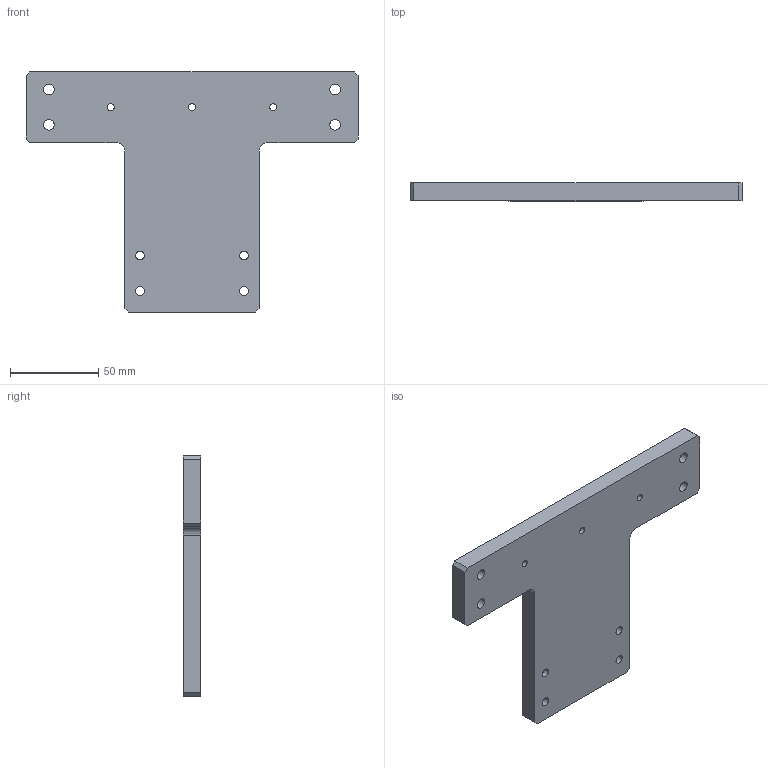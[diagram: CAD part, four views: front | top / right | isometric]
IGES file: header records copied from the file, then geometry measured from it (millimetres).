
Start section:  PTC IGES file: n46-n46m-ft.igs
Global section: file name: n46-n46m-ft.igs; native system: Pro/ENGINEER by Parametric Technology Corporation; preprocessor: 2008230; author: Owner; organization: Unknown; date: 20121212.112846; units: millimetre
Bounding box: 188 x 10 x 136 mm (x, y, z)
Surface area: 37824.6 mm2 (no closed solid volume)
Topology: 0 solids, 0 shells, 61 faces, 312 edges, 312 vertices
Faces by surface type: revolution 38, bspline 23
